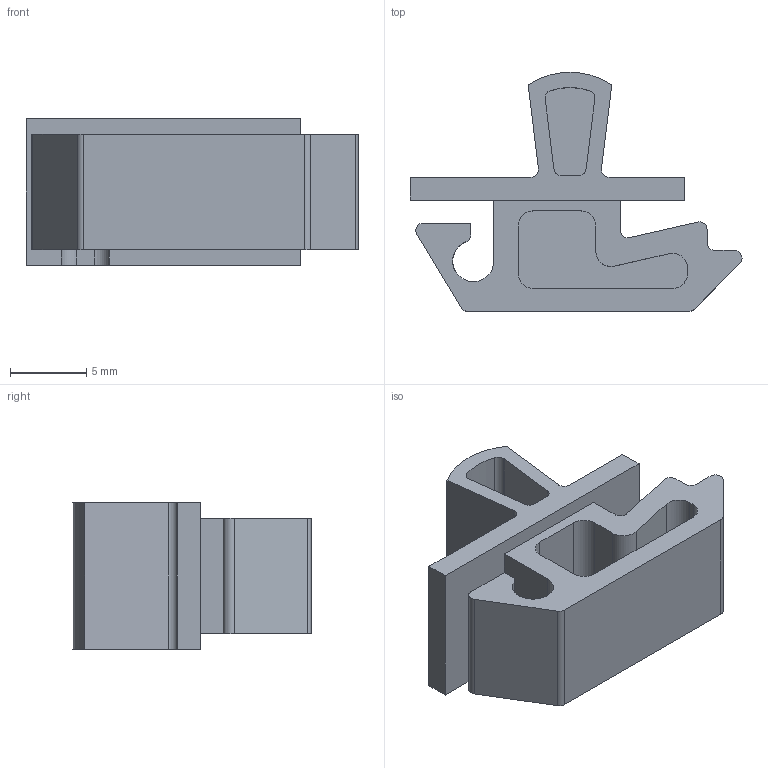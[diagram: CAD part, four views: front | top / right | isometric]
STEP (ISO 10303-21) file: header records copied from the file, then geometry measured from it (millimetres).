
FILE_DESCRIPTION (( 'STEP AP214' ), '1' );
FILE_NAME ('2.509.002.STEP', '2012-01-27T10:38:44', ( 'Techniczny' ), ( 'RST Roztocze' ), 'SwSTEP 2.0', 'SolidWorks 2010', '' );
FILE_SCHEMA (( 'AUTOMOTIVE_DESIGN' ));
Length unit declared in the file: millimetre
Products named in the file (1): 2.509.002
Bounding box: 21.79 x 15.68 x 9.6 mm (x, y, z)
Volume: 1031.1 mm3; surface area: 1499.5 mm2
Topology: 1 solids, 1 shells, 87 faces, 240 edges, 160 vertices
Faces by surface type: plane 47, cylinder 40
Entity records: 2829 total; most frequent: DIRECTION 497, CARTESIAN_POINT 488, ORIENTED_EDGE 480, EDGE_CURVE 240, AXIS2_PLACEMENT_3D 169, VERTEX_POINT 160, VECTOR 159, LINE 159
